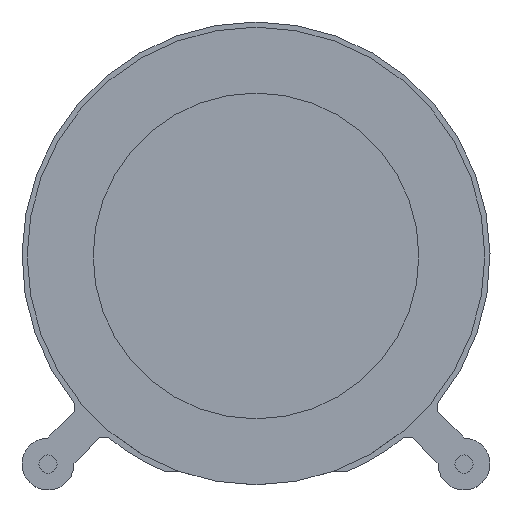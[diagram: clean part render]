
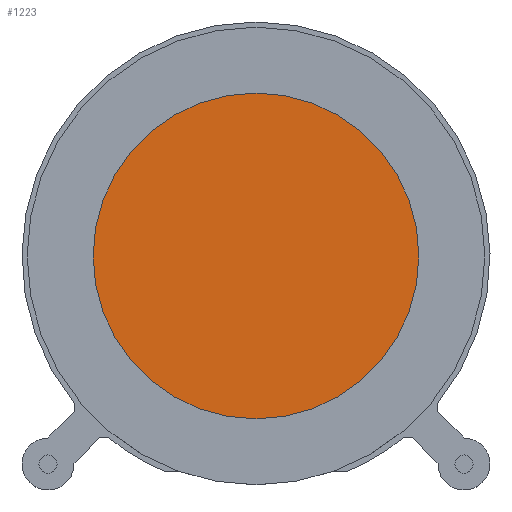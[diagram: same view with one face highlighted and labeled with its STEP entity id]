
A CAD part, top view. The second image highlights one B-rep face of the part: STEP entity #1223.
In plain terms, the highlighted planar face has unit normal (0, 0, 1).
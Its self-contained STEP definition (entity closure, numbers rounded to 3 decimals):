
#1195 = VERTEX_POINT('',#1196);
#1196 = CARTESIAN_POINT('',(31.32,0.,0.01));
#1202 = EDGE_CURVE('',#1195,#1195,#1203,.T.);
#1203 = CIRCLE('',#1204,31.32);
#1204 = AXIS2_PLACEMENT_3D('',#1205,#1206,#1207);
#1205 = CARTESIAN_POINT('',(0.,0.,0.01));
#1206 = DIRECTION('',(0.,0.,1.));
#1207 = DIRECTION('',(1.,0.,0.));
#1223 = ADVANCED_FACE('',(#1224),#1227,.F.);
#1224 = FACE_BOUND('',#1225,.T.);
#1225 = EDGE_LOOP('',(#1226));
#1226 = ORIENTED_EDGE('',*,*,#1202,.T.);
#1227 = PLANE('',#1228);
#1228 = AXIS2_PLACEMENT_3D('',#1229,#1230,#1231);
#1229 = CARTESIAN_POINT('',(31.32,0.,0.01));
#1230 = DIRECTION('',(0.,0.,-1.));
#1231 = DIRECTION('',(-1.,0.,0.));
